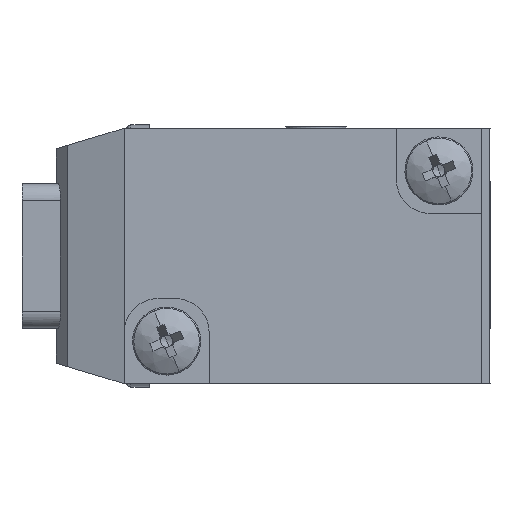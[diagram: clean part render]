
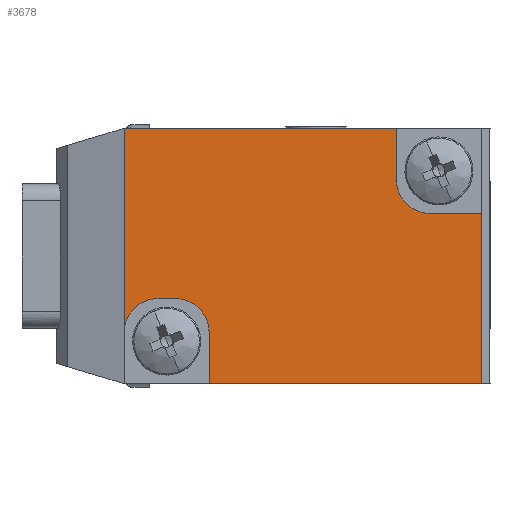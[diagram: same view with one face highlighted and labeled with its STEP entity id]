
A CAD part, left-side view. The second image highlights one B-rep face of the part: STEP entity #3678.
In plain terms, the highlighted planar face has unit normal (-1, 0, 0) as drawn and (1, 0, 0) by its records, which use the part's own axes.
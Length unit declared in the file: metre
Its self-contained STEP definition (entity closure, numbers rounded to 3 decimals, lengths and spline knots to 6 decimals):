
#90 = VERTEX_POINT ( 'NONE', #8857 ) ;
#183 = AXIS2_PLACEMENT_3D ( 'NONE', #2896, #8129, #3692 ) ;
#337 = VERTEX_POINT ( 'NONE', #5993 ) ;
#434 = VECTOR ( 'NONE', #8373, 1. ) ;
#492 = VERTEX_POINT ( 'NONE', #6715 ) ;
#545 = LINE ( 'NONE', #6095, #2800 ) ;
#560 = EDGE_CURVE ( 'NONE', #9251, #3001, #7431, .T. ) ;
#837 = ORIENTED_EDGE ( 'NONE', *, *, #560, .T. ) ;
#899 = CIRCLE ( 'NONE', #9383, 0.002 ) ;
#1006 = CARTESIAN_POINT ( 'NONE',  ( 0.01825, -0.0095, -0.0025 ) ) ;
#1075 = EDGE_CURVE ( 'NONE', #2984, #337, #4173, .T. ) ;
#1092 = ORIENTED_EDGE ( 'NONE', *, *, #3107, .F. ) ;
#1152 = CARTESIAN_POINT ( 'NONE',  ( 0.01825, 0.0065, 0.0025 ) ) ;
#1293 = ORIENTED_EDGE ( 'NONE', *, *, #6271, .F. ) ;
#1380 = DIRECTION ( 'NONE',  ( 0., 1., 0. ) ) ;
#1433 = VECTOR ( 'NONE', #9135, 1. ) ;
#1583 = DIRECTION ( 'NONE',  ( 0., 0., -1. ) ) ;
#1728 = VECTOR ( 'NONE', #1380, 1. ) ;
#1980 = DIRECTION ( 'NONE',  ( 0., -1., 0. ) ) ;
#2121 = CARTESIAN_POINT ( 'NONE',  ( 0.01825, -0.002, -0.0075 ) ) ;
#2150 = AXIS2_PLACEMENT_3D ( 'NONE', #9539, #9604, #9632 ) ;
#2173 = VERTEX_POINT ( 'NONE', #4496 ) ;
#2260 = ORIENTED_EDGE ( 'NONE', *, *, #3648, .T. ) ;
#2423 = VECTOR ( 'NONE', #7965, 1. ) ;
#2449 = LINE ( 'NONE', #8248, #434 ) ;
#2477 = VERTEX_POINT ( 'NONE', #7087 ) ;
#2487 = ORIENTED_EDGE ( 'NONE', *, *, #3184, .F. ) ;
#2587 = EDGE_CURVE ( 'NONE', #2477, #337, #2449, .T. ) ;
#2648 = ORIENTED_EDGE ( 'NONE', *, *, #2587, .T. ) ;
#2800 = VECTOR ( 'NONE', #1583, 1. ) ;
#2857 = VERTEX_POINT ( 'NONE', #1152 ) ;
#2896 = CARTESIAN_POINT ( 'NONE',  ( 0.01825, 0.0055, 0.0045 ) ) ;
#2984 = VERTEX_POINT ( 'NONE', #4340 ) ;
#3001 = VERTEX_POINT ( 'NONE', #4462 ) ;
#3107 = EDGE_CURVE ( 'NONE', #2477, #4720, #899, .T. ) ;
#3184 = EDGE_CURVE ( 'NONE', #2857, #492, #8191, .T. ) ;
#3311 = DIRECTION ( 'NONE',  ( 0., 1., 0. ) ) ;
#3425 = FACE_OUTER_BOUND ( 'NONE', #4480, .T. ) ;
#3563 = CARTESIAN_POINT ( 'NONE',  ( 0.01825, -0.011, -0.0025 ) ) ;
#3581 = CARTESIAN_POINT ( 'NONE',  ( 0.01825, -0.0125, -0.0075 ) ) ;
#3587 = CARTESIAN_POINT ( 'NONE',  ( 0.01825, 0.0055, 0.0025 ) ) ;
#3626 = PLANE ( 'NONE',  #7012 ) ;
#3648 = EDGE_CURVE ( 'NONE', #2173, #4720, #5420, .T. ) ;
#3678 = ADVANCED_FACE ( 'NONE', ( #3425 ), #3626, .F. ) ;
#3692 = DIRECTION ( 'NONE',  ( 0., 0., 1. ) ) ;
#3726 = DIRECTION ( 'NONE',  ( -1., 0., 0. ) ) ;
#3797 = VECTOR ( 'NONE', #5595, 1. ) ;
#3817 = DIRECTION ( 'NONE',  ( 0., 0., 1. ) ) ;
#4135 = ORIENTED_EDGE ( 'NONE', *, *, #8622, .F. ) ;
#4173 = LINE ( 'NONE', #2121, #7534 ) ;
#4310 = ORIENTED_EDGE ( 'NONE', *, *, #8755, .F. ) ;
#4340 = CARTESIAN_POINT ( 'NONE',  ( 0.01825, 0.0085, -0.0075 ) ) ;
#4388 = VECTOR ( 'NONE', #3311, 1. ) ;
#4462 = CARTESIAN_POINT ( 'NONE',  ( 0.01825, -0.0125, 0.0075 ) ) ;
#4480 = EDGE_LOOP ( 'NONE', ( #2260, #1092, #2648, #4572, #4135, #2487, #4310, #5514, #1293, #837, #5459 ) ) ;
#4496 = CARTESIAN_POINT ( 'NONE',  ( 0.01825, -0.0125, -0.0025 ) ) ;
#4572 = ORIENTED_EDGE ( 'NONE', *, *, #1075, .F. ) ;
#4720 = VERTEX_POINT ( 'NONE', #1006 ) ;
#5016 = VERTEX_POINT ( 'NONE', #3587 ) ;
#5420 = LINE ( 'NONE', #3563, #4388 ) ;
#5459 = ORIENTED_EDGE ( 'NONE', *, *, #8296, .T. ) ;
#5514 = ORIENTED_EDGE ( 'NONE', *, *, #8766, .F. ) ;
#5518 = CIRCLE ( 'NONE', #183, 0.002 ) ;
#5541 = LINE ( 'NONE', #5721, #3797 ) ;
#5595 = DIRECTION ( 'NONE',  ( 0., 0., -1. ) ) ;
#5721 = CARTESIAN_POINT ( 'NONE',  ( 0.01825, 0.0035, 0. ) ) ;
#5900 = CARTESIAN_POINT ( 'NONE',  ( 0.01825, -0.002, 0.0025 ) ) ;
#5993 = CARTESIAN_POINT ( 'NONE',  ( 0.01825, -0.0075, -0.0075 ) ) ;
#6095 = CARTESIAN_POINT ( 'NONE',  ( 0.01825, -0.0125, 0. ) ) ;
#6271 = EDGE_CURVE ( 'NONE', #9251, #90, #5541, .T. ) ;
#6715 = CARTESIAN_POINT ( 'NONE',  ( 0.01825, 0.0085, 0.0045 ) ) ;
#7012 = AXIS2_PLACEMENT_3D ( 'NONE', #3581, #3726, #3817 ) ;
#7087 = CARTESIAN_POINT ( 'NONE',  ( 0.01825, -0.0075, -0.0045 ) ) ;
#7246 = CARTESIAN_POINT ( 'NONE',  ( 0.01825, 0.0085, 0. ) ) ;
#7431 = LINE ( 'NONE', #9291, #1433 ) ;
#7534 = VECTOR ( 'NONE', #1980, 1. ) ;
#7850 = DIRECTION ( 'NONE',  ( 1., 0., 0. ) ) ;
#7965 = DIRECTION ( 'NONE',  ( 0., 0., -1. ) ) ;
#7968 = CARTESIAN_POINT ( 'NONE',  ( 0.01825, -0.0095, -0.0045 ) ) ;
#8011 = DIRECTION ( 'NONE',  ( 0., 0., 1. ) ) ;
#8129 = DIRECTION ( 'NONE',  ( 1., 0., 0. ) ) ;
#8191 = CIRCLE ( 'NONE', #2150, 0.002 ) ;
#8248 = CARTESIAN_POINT ( 'NONE',  ( 0.01825, -0.0075, -0.006 ) ) ;
#8296 = EDGE_CURVE ( 'NONE', #3001, #2173, #545, .T. ) ;
#8373 = DIRECTION ( 'NONE',  ( 0., 0., -1. ) ) ;
#8406 = LINE ( 'NONE', #7246, #2423 ) ;
#8622 = EDGE_CURVE ( 'NONE', #492, #2984, #8406, .T. ) ;
#8755 = EDGE_CURVE ( 'NONE', #5016, #2857, #9239, .T. ) ;
#8766 = EDGE_CURVE ( 'NONE', #90, #5016, #5518, .T. ) ;
#8857 = CARTESIAN_POINT ( 'NONE',  ( 0.01825, 0.0035, 0.0045 ) ) ;
#9135 = DIRECTION ( 'NONE',  ( 0., -1., 0. ) ) ;
#9239 = LINE ( 'NONE', #5900, #1728 ) ;
#9251 = VERTEX_POINT ( 'NONE', #9564 ) ;
#9291 = CARTESIAN_POINT ( 'NONE',  ( 0.01825, -0.002, 0.0075 ) ) ;
#9383 = AXIS2_PLACEMENT_3D ( 'NONE', #7968, #7850, #8011 ) ;
#9539 = CARTESIAN_POINT ( 'NONE',  ( 0.01825, 0.0065, 0.0045 ) ) ;
#9564 = CARTESIAN_POINT ( 'NONE',  ( 0.01825, 0.0035, 0.0075 ) ) ;
#9604 = DIRECTION ( 'NONE',  ( 1., 0., 0. ) ) ;
#9632 = DIRECTION ( 'NONE',  ( 0., 0., 1. ) ) ;
